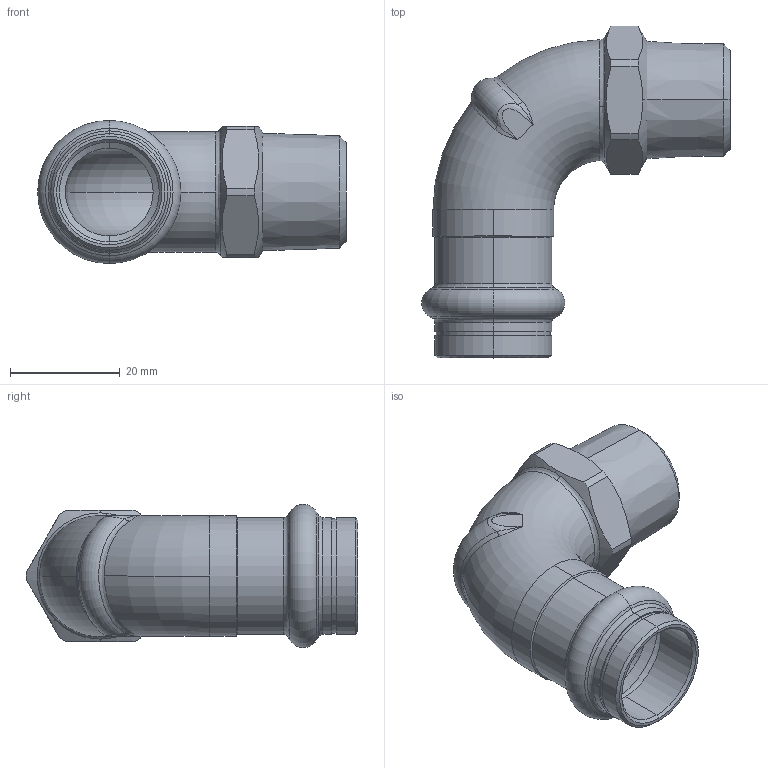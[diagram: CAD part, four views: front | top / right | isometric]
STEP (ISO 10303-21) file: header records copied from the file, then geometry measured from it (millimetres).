
FILE_DESCRIPTION (( 'STEP AP203' ), '1' );
FILE_NAME ('SP4001G Ø18 1-2.STEP', '2017-04-28T08:39:42', ( '' ), ( '' ), 'SwSTEP 2.0', 'SolidWorks 2016', '' );
FILE_SCHEMA (( 'CONFIG_CONTROL_DESIGN' ));
Length unit declared in the file: millimetre
Products named in the file (1): SP4001G Ø18 1-2
Bounding box: 56.25 x 60.5 x 26.1 mm (x, y, z)
Volume: 13807.3 mm3; surface area: 10700.4 mm2
Topology: 1 solids, 1 shells, 90 faces, 214 edges, 129 vertices
Faces by surface type: cone 26, cylinder 24, plane 17, torus 13, bspline 10
Entity records: 4096 total; most frequent: CARTESIAN_POINT 1998, DIRECTION 428, ORIENTED_EDGE 428, EDGE_CURVE 214, AXIS2_PLACEMENT_3D 184, VERTEX_POINT 129, CIRCLE 103, EDGE_LOOP 95
